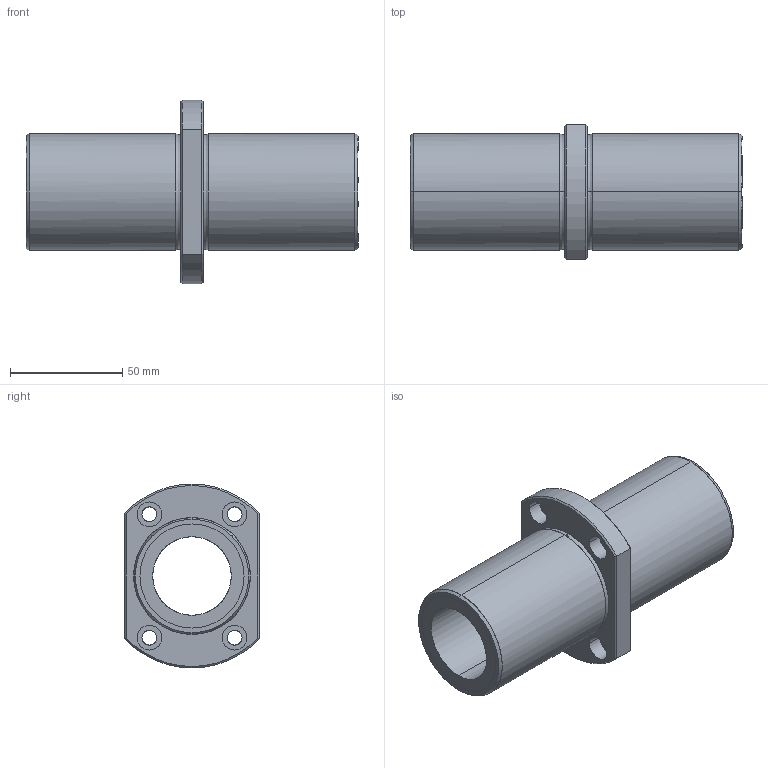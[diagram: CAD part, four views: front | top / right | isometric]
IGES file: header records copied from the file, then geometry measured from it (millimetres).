
Global section: file name: No Iges File Name specified; native system: AutoDesk Inventor R11.0; preprocessor: AutoDesk Inventor Iges Exporter R11.0; author: No Author specified; organization: No Organization specified; date: 20170921.151152; units: millimetre
Bounding box: 148 x 60 x 82 mm (x, y, z)
Surface area: 48895.3 mm2 (no closed solid volume)
Topology: 0 solids, 0 shells, 57 faces, 382 edges, 382 vertices
Faces by surface type: bspline 57
